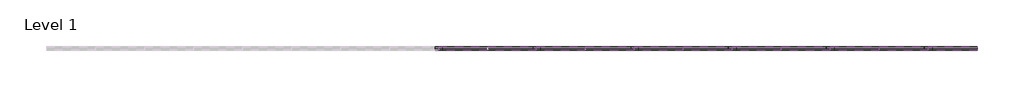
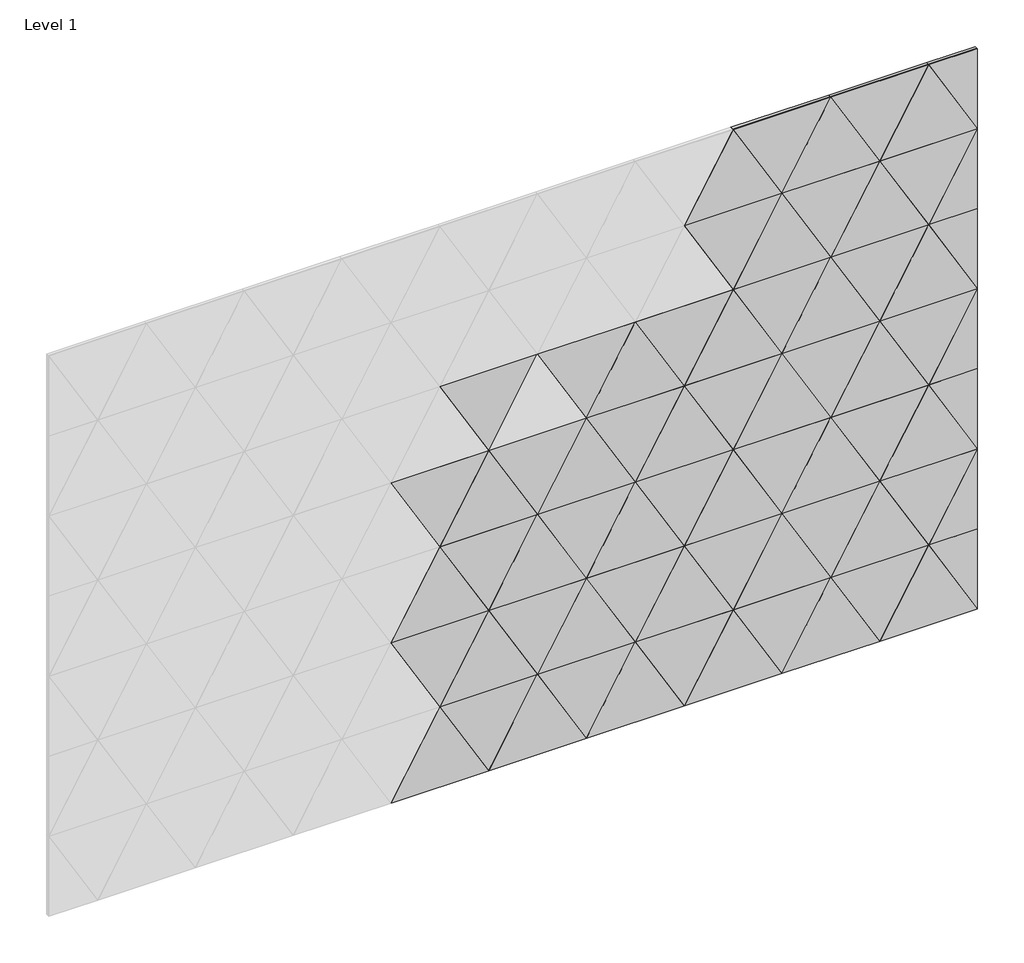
# One storey, part 2 of 2: 70 proxies.
"""IFC4 building model written with IfcOpenShell, lengths in millimetres."""

from ifc_helpers import new_model, si_unit, origin, place, context, project, spatial, transform, mapped, element, save
from components import triangle_60_block_95fa7baf, triangle_60_block_745a5d07, triangle_60_block_31d98bf3

model = new_model("IFC4")

# Units and contexts
model_context = context("Model", 3, world=origin())
ifc_project = project(units=[si_unit("LENGTHUNIT", "METRE", prefix="MILLI")], contexts=[model_context])

# Site, building, storey
site = spatial("IfcSite", under=ifc_project)
building = spatial("IfcBuilding", under=site)
storey = spatial("IfcBuildingStorey", under=building, Name="Level 1", Elevation=0.0)

# Proxies
placement = place(None, origin())
triangle_60_block_shape = triangle_60_block_95fa7baf(model_context)
element("IfcBuildingElementProxy", 1, Name="FilzFelt_Triangle_60_Block : Triangle 60 Block", ObjectType="FilzFelt_Triangle_60_Block : Triangle 60 Block", at=placement, inside=storey, context=model_context, shape_type="MappedRepresentation", body=[
    mapped(triangle_60_block_shape, transform((49297.14909, -3215.9647205, 2243.5180059), x_axis=(-1.0, 0.0, 0.0), y_axis=(0.0, 0.0, -1.0), z_axis=(0.0, -1.0, 0.0))),
])
element("IfcBuildingElementProxy", 2, Name="FilzFelt_Triangle_60_Block : Triangle 60 Block", ObjectType="FilzFelt_Triangle_60_Block : Triangle 60 Block", at=placement, inside=storey, context=model_context, shape_type="MappedRepresentation", body=[
    mapped(triangle_60_block_shape, transform((49825.78659, -3215.9647205, 2243.3090029), x_axis=(1.0, 0.0, 0.0), y_axis=(0.0, 0.0, 1.0), z_axis=(0.0, -1.0, 0.0))),
])
element("IfcBuildingElementProxy", 3, Name="FilzFelt_Triangle_60_Block : Triangle 60 Block", ObjectType="FilzFelt_Triangle_60_Block : Triangle 60 Block", at=placement, inside=storey, context=model_context, shape_type="MappedRepresentation", body=[
    mapped(triangle_60_block_shape, transform((49297.14909, -3215.9647205, 1938.1), x_axis=(1.0, 0.0, 0.0), y_axis=(0.0, 0.0, 1.0), z_axis=(0.0, -1.0, 0.0))),
])
element("IfcBuildingElementProxy", 4, Name="FilzFelt_Triangle_60_Block : Triangle 60 Block", ObjectType="FilzFelt_Triangle_60_Block : Triangle 60 Block", at=placement, inside=storey, context=model_context, shape_type="MappedRepresentation", body=[
    mapped(triangle_60_block_shape, transform((48239.87409, -3215.9647205, 1633.1), x_axis=(-1.0, 0.0, 0.0), y_axis=(0.0, 0.0, -1.0), z_axis=(0.0, -1.0, 0.0))),
])
element("IfcBuildingElementProxy", 5, Name="FilzFelt_Triangle_60_Block : Triangle 60 Block", ObjectType="FilzFelt_Triangle_60_Block : Triangle 60 Block", at=placement, inside=storey, context=model_context, shape_type="MappedRepresentation", body=[
    mapped(triangle_60_block_shape, transform((48944.72409, -3215.9647205, 1633.1), x_axis=(-1.0, 0.0, 0.0), y_axis=(0.0, 0.0, -1.0), z_axis=(0.0, -1.0, 0.0))),
])
element("IfcBuildingElementProxy", 6, Name="FilzFelt_Triangle_60_Block : Triangle 60 Block", ObjectType="FilzFelt_Triangle_60_Block : Triangle 60 Block", at=placement, inside=storey, context=model_context, shape_type="MappedRepresentation", body=[
    mapped(triangle_60_block_shape, transform((48239.87409, -3215.9647205, 1327.6819941), x_axis=(1.0, 0.0, 0.0), y_axis=(0.0, 0.0, 1.0), z_axis=(0.0, -1.0, 0.0))),
])
element("IfcBuildingElementProxy", 7, Name="FilzFelt_Triangle_60_Block : Triangle 60 Block", ObjectType="FilzFelt_Triangle_60_Block : Triangle 60 Block", at=placement, inside=storey, context=model_context, shape_type="MappedRepresentation", body=[
    mapped(triangle_60_block_shape, transform((49473.36159, -3215.9647205, 1327.8909971), x_axis=(-1.0, 0.0, 0.0), y_axis=(0.0, 0.0, -1.0), z_axis=(0.0, -1.0, 0.0))),
])
element("IfcBuildingElementProxy", 8, Name="FilzFelt_Triangle_60_Block : Triangle 60 Block", ObjectType="FilzFelt_Triangle_60_Block : Triangle 60 Block", at=placement, inside=storey, context=model_context, shape_type="MappedRepresentation", body=[
    mapped(triangle_60_block_shape, transform((48416.08659, -3215.9647205, 1022.4729912), x_axis=(1.0, 0.0, 0.0), y_axis=(0.0, 0.0, 1.0), z_axis=(0.0, -1.0, 0.0))),
])
element("IfcBuildingElementProxy", 9, Name="FilzFelt_Triangle_60_Block : Triangle 60 Block", ObjectType="FilzFelt_Triangle_60_Block : Triangle 60 Block", at=placement, inside=storey, context=model_context, shape_type="MappedRepresentation", body=[
    mapped(triangle_60_block_shape, transform((48768.51159, -3215.9647205, 1022.4729912), x_axis=(1.0, 0.0, 0.0), y_axis=(0.0, 0.0, 1.0), z_axis=(0.0, -1.0, 0.0))),
])
element("IfcBuildingElementProxy", 10, Name="FilzFelt_Triangle_60_Block : Triangle 60 Block", ObjectType="FilzFelt_Triangle_60_Block : Triangle 60 Block", at=placement, inside=storey, context=model_context, shape_type="MappedRepresentation", body=[
    mapped(triangle_60_block_shape, transform((48944.72409, -3215.9647205, 1022.6819941), x_axis=(-1.0, 0.0, 0.0), y_axis=(0.0, 0.0, -1.0), z_axis=(0.0, -1.0, 0.0))),
])
element("IfcBuildingElementProxy", 11, Name="FilzFelt_Triangle_60_Block : Triangle 60 Block", ObjectType="FilzFelt_Triangle_60_Block : Triangle 60 Block", at=placement, inside=storey, context=model_context, shape_type="MappedRepresentation", body=[
    mapped(triangle_60_block_shape, transform((49297.14909, -3215.9647205, 1022.6819941), x_axis=(-1.0, 0.0, 0.0), y_axis=(0.0, 0.0, -1.0), z_axis=(0.0, -1.0, 0.0))),
])
element("IfcBuildingElementProxy", 12, Name="FilzFelt_Triangle_60_Block : Triangle 60 Block", ObjectType="FilzFelt_Triangle_60_Block : Triangle 60 Block", at=placement, inside=storey, context=model_context, shape_type="MappedRepresentation", body=[
    mapped(triangle_60_block_shape, transform((49825.78659, -3215.9647205, 1022.4729912), x_axis=(1.0, 0.0, 0.0), y_axis=(0.0, 0.0, 1.0), z_axis=(0.0, -1.0, 0.0))),
])
element("IfcBuildingElementProxy", 13, Name="FilzFelt_Triangle_60_Block : Triangle 60 Block", ObjectType="FilzFelt_Triangle_60_Block : Triangle 60 Block", at=placement, inside=storey, context=model_context, shape_type="MappedRepresentation", body=[
    mapped(triangle_60_block_shape, transform((48063.66159, -3215.9647205, 717.4729912), x_axis=(-1.0, 0.0, 0.0), y_axis=(0.0, 0.0, -1.0), z_axis=(0.0, -1.0, 0.0))),
])
element("IfcBuildingElementProxy", 14, Name="FilzFelt_Triangle_60_Block : Triangle 60 Block", ObjectType="FilzFelt_Triangle_60_Block : Triangle 60 Block", at=placement, inside=storey, context=model_context, shape_type="MappedRepresentation", body=[
    mapped(triangle_60_block_shape, transform((48944.72409, -3215.9647205, 717.2639883), x_axis=(1.0, 0.0, 0.0), y_axis=(0.0, 0.0, 1.0), z_axis=(0.0, -1.0, 0.0))),
])
element("IfcBuildingElementProxy", 15, Name="FilzFelt_Triangle_60_Block : Triangle 60 Block", ObjectType="FilzFelt_Triangle_60_Block : Triangle 60 Block", at=placement, inside=storey, context=model_context, shape_type="MappedRepresentation", body=[
    mapped(triangle_60_block_shape, transform((49649.57409, -3215.9647205, 717.2639883), x_axis=(1.0, 0.0, 0.0), y_axis=(0.0, 0.0, 1.0), z_axis=(0.0, -1.0, 0.0))),
])
element("IfcBuildingElementProxy", 16, Name="FilzFelt_Triangle_60_Block : Triangle 60 Block", ObjectType="FilzFelt_Triangle_60_Block : Triangle 60 Block", at=placement, inside=storey, context=model_context, shape_type="MappedRepresentation", body=[
    mapped(triangle_60_block_shape, transform((48416.08659, -3215.9647205, 412.0549854), x_axis=(1.0, 0.0, 0.0), y_axis=(0.0, 0.0, 1.0), z_axis=(0.0, -1.0, 0.0))),
])
element("IfcBuildingElementProxy", 17, Name="FilzFelt_Triangle_60_Block : Triangle 60 Block", ObjectType="FilzFelt_Triangle_60_Block : Triangle 60 Block", at=placement, inside=storey, context=model_context, shape_type="MappedRepresentation", body=[
    mapped(triangle_60_block_shape, transform((48768.51159, -3215.9647205, 412.0549854), x_axis=(1.0, 0.0, 0.0), y_axis=(0.0, 0.0, 1.0), z_axis=(0.0, -1.0, 0.0))),
])
element("IfcBuildingElementProxy", 18, Name="FilzFelt_Triangle_60_Block : Triangle 60 Block", ObjectType="FilzFelt_Triangle_60_Block : Triangle 60 Block", at=placement, inside=storey, context=model_context, shape_type="MappedRepresentation", body=[
    mapped(triangle_60_block_shape, transform((49297.14909, -3215.9647205, 412.2639883), x_axis=(-1.0, 0.0, 0.0), y_axis=(0.0, 0.0, -1.0), z_axis=(0.0, -1.0, 0.0))),
])
triangle_60_block_2_shape = triangle_60_block_745a5d07(model_context)
element("IfcBuildingElementProxy", 19, Name="FilzFelt_Triangle_60_Block : Triangle 60 Block", ObjectType="FilzFelt_Triangle_60_Block : Triangle 60 Block", at=placement, inside=storey, context=model_context, shape_type="MappedRepresentation", body=[
    mapped(triangle_60_block_2_shape, transform((50001.99909, -3215.9647205, 1327.6819941), x_axis=(-1.0, 0.0, 0.0), y_axis=(0.0, 0.0, -1.0), z_axis=(0.0, -1.0, 0.0))),
])
triangle_60_block_3_shape = triangle_60_block_31d98bf3(model_context)
element("IfcBuildingElementProxy", 20, Name="FilzFelt_Triangle_60_Block : Triangle 60 Block", ObjectType="FilzFelt_Triangle_60_Block : Triangle 60 Block", at=placement, inside=storey, context=model_context, shape_type="MappedRepresentation", body=[
    mapped(triangle_60_block_3_shape, transform((50001.99909, -3215.9647205, 1633.1), x_axis=(-1.0, 0.0, 0.0), y_axis=(0.0, 0.0, -1.0), z_axis=(0.0, -1.0, 0.0))),
])
element("IfcBuildingElementProxy", 21, Name="FilzFelt_Triangle_60_Block : Triangle 60 Block", ObjectType="FilzFelt_Triangle_60_Block : Triangle 60 Block", at=placement, inside=storey, context=model_context, shape_type="MappedRepresentation", body=[
    mapped(triangle_60_block_shape, transform((49473.36159, -3215.9647205, 2243.3090029), x_axis=(1.0, 0.0, 0.0), y_axis=(0.0, 0.0, 1.0), z_axis=(0.0, -1.0, 0.0))),
])
element("IfcBuildingElementProxy", 22, Name="FilzFelt_Triangle_60_Block : Triangle 60 Block", ObjectType="FilzFelt_Triangle_60_Block : Triangle 60 Block", at=placement, inside=storey, context=model_context, shape_type="MappedRepresentation", body=[
    mapped(triangle_60_block_shape, transform((49120.93659, -3215.9647205, 1938.3090029), x_axis=(-1.0, 0.0, 0.0), y_axis=(0.0, 0.0, -1.0), z_axis=(0.0, -1.0, 0.0))),
])
element("IfcBuildingElementProxy", 23, Name="FilzFelt_Triangle_60_Block : Triangle 60 Block", ObjectType="FilzFelt_Triangle_60_Block : Triangle 60 Block", at=placement, inside=storey, context=model_context, shape_type="MappedRepresentation", body=[
    mapped(triangle_60_block_shape, transform((49473.36159, -3215.9647205, 1632.8909971), x_axis=(1.0, 0.0, 0.0), y_axis=(0.0, 0.0, 1.0), z_axis=(0.0, -1.0, 0.0))),
])
element("IfcBuildingElementProxy", 24, Name="FilzFelt_Triangle_60_Block : Triangle 60 Block", ObjectType="FilzFelt_Triangle_60_Block : Triangle 60 Block", at=placement, inside=storey, context=model_context, shape_type="MappedRepresentation", body=[
    mapped(triangle_60_block_shape, transform((48592.29909, -3215.9647205, 1633.1), x_axis=(-1.0, 0.0, 0.0), y_axis=(0.0, 0.0, -1.0), z_axis=(0.0, -1.0, 0.0))),
])
element("IfcBuildingElementProxy", 25, Name="FilzFelt_Triangle_60_Block : Triangle 60 Block", ObjectType="FilzFelt_Triangle_60_Block : Triangle 60 Block", at=placement, inside=storey, context=model_context, shape_type="MappedRepresentation", body=[
    mapped(triangle_60_block_shape, transform((48063.66159, -3215.9647205, 1327.8909971), x_axis=(-1.0, 0.0, 0.0), y_axis=(0.0, 0.0, -1.0), z_axis=(0.0, -1.0, 0.0))),
])
element("IfcBuildingElementProxy", 26, Name="FilzFelt_Triangle_60_Block : Triangle 60 Block", ObjectType="FilzFelt_Triangle_60_Block : Triangle 60 Block", at=placement, inside=storey, context=model_context, shape_type="MappedRepresentation", body=[
    mapped(triangle_60_block_shape, transform((48592.29909, -3215.9647205, 1327.6819941), x_axis=(1.0, 0.0, 0.0), y_axis=(0.0, 0.0, 1.0), z_axis=(0.0, -1.0, 0.0))),
])
element("IfcBuildingElementProxy", 27, Name="FilzFelt_Triangle_60_Block : Triangle 60 Block", ObjectType="FilzFelt_Triangle_60_Block : Triangle 60 Block", at=placement, inside=storey, context=model_context, shape_type="MappedRepresentation", body=[
    mapped(triangle_60_block_shape, transform((48944.72409, -3215.9647205, 1327.6819941), x_axis=(1.0, 0.0, 0.0), y_axis=(0.0, 0.0, 1.0), z_axis=(0.0, -1.0, 0.0))),
])
element("IfcBuildingElementProxy", 28, Name="FilzFelt_Triangle_60_Block : Triangle 60 Block", ObjectType="FilzFelt_Triangle_60_Block : Triangle 60 Block", at=placement, inside=storey, context=model_context, shape_type="MappedRepresentation", body=[
    mapped(triangle_60_block_shape, transform((49297.14909, -3215.9647205, 1327.6819941), x_axis=(1.0, 0.0, 0.0), y_axis=(0.0, 0.0, 1.0), z_axis=(0.0, -1.0, 0.0))),
])
element("IfcBuildingElementProxy", 29, Name="FilzFelt_Triangle_60_Block : Triangle 60 Block", ObjectType="FilzFelt_Triangle_60_Block : Triangle 60 Block", at=placement, inside=storey, context=model_context, shape_type="MappedRepresentation", body=[
    mapped(triangle_60_block_shape, transform((49825.78659, -3215.9647205, 1327.8909971), x_axis=(-1.0, 0.0, 0.0), y_axis=(0.0, 0.0, -1.0), z_axis=(0.0, -1.0, 0.0))),
])
element("IfcBuildingElementProxy", 30, Name="FilzFelt_Triangle_60_Block : Triangle 60 Block", ObjectType="FilzFelt_Triangle_60_Block : Triangle 60 Block", at=placement, inside=storey, context=model_context, shape_type="MappedRepresentation", body=[
    mapped(triangle_60_block_shape, transform((49120.93659, -3215.9647205, 1022.4729912), x_axis=(1.0, 0.0, 0.0), y_axis=(0.0, 0.0, 1.0), z_axis=(0.0, -1.0, 0.0))),
])
element("IfcBuildingElementProxy", 31, Name="FilzFelt_Triangle_60_Block : Triangle 60 Block", ObjectType="FilzFelt_Triangle_60_Block : Triangle 60 Block", at=placement, inside=storey, context=model_context, shape_type="MappedRepresentation", body=[
    mapped(triangle_60_block_shape, transform((48239.87409, -3215.9647205, 1022.6819941), x_axis=(-1.0, 0.0, 0.0), y_axis=(0.0, 0.0, -1.0), z_axis=(0.0, -1.0, 0.0))),
])
element("IfcBuildingElementProxy", 32, Name="FilzFelt_Triangle_60_Block : Triangle 60 Block", ObjectType="FilzFelt_Triangle_60_Block : Triangle 60 Block", at=placement, inside=storey, context=model_context, shape_type="MappedRepresentation", body=[
    mapped(triangle_60_block_shape, transform((48768.51159, -3215.9647205, 717.4729912), x_axis=(-1.0, 0.0, 0.0), y_axis=(0.0, 0.0, -1.0), z_axis=(0.0, -1.0, 0.0))),
])
element("IfcBuildingElementProxy", 33, Name="FilzFelt_Triangle_60_Block : Triangle 60 Block", ObjectType="FilzFelt_Triangle_60_Block : Triangle 60 Block", at=placement, inside=storey, context=model_context, shape_type="MappedRepresentation", body=[
    mapped(triangle_60_block_shape, transform((49473.36159, -3215.9647205, 717.4729912), x_axis=(-1.0, 0.0, 0.0), y_axis=(0.0, 0.0, -1.0), z_axis=(0.0, -1.0, 0.0))),
])
element("IfcBuildingElementProxy", 34, Name="FilzFelt_Triangle_60_Block : Triangle 60 Block", ObjectType="FilzFelt_Triangle_60_Block : Triangle 60 Block", at=placement, inside=storey, context=model_context, shape_type="MappedRepresentation", body=[
    mapped(triangle_60_block_shape, transform((49825.78659, -3215.9647205, 717.4729912), x_axis=(-1.0, 0.0, 0.0), y_axis=(0.0, 0.0, -1.0), z_axis=(0.0, -1.0, 0.0))),
])
element("IfcBuildingElementProxy", 35, Name="FilzFelt_Triangle_60_Block : Triangle 60 Block", ObjectType="FilzFelt_Triangle_60_Block : Triangle 60 Block", at=placement, inside=storey, context=model_context, shape_type="MappedRepresentation", body=[
    mapped(triangle_60_block_shape, transform((49473.36159, -3215.9647205, 412.0549854), x_axis=(1.0, 0.0, 0.0), y_axis=(0.0, 0.0, 1.0), z_axis=(0.0, -1.0, 0.0))),
])
element("IfcBuildingElementProxy", 36, Name="FilzFelt_Triangle_60_Block : Triangle 60 Block", ObjectType="FilzFelt_Triangle_60_Block : Triangle 60 Block", at=placement, inside=storey, context=model_context, shape_type="MappedRepresentation", body=[
    mapped(triangle_60_block_shape, transform((48239.87409, -3215.9647205, 412.2639883), x_axis=(-1.0, 0.0, 0.0), y_axis=(0.0, 0.0, -1.0), z_axis=(0.0, -1.0, 0.0))),
])
element("IfcBuildingElementProxy", 37, Name="FilzFelt_Triangle_60_Block : Triangle 60 Block", ObjectType="FilzFelt_Triangle_60_Block : Triangle 60 Block", at=placement, inside=storey, context=model_context, shape_type="MappedRepresentation", body=[
    mapped(triangle_60_block_shape, transform((48592.29909, -3215.9647205, 412.2639883), x_axis=(-1.0, 0.0, 0.0), y_axis=(0.0, 0.0, -1.0), z_axis=(0.0, -1.0, 0.0))),
])
element("IfcBuildingElementProxy", 38, Name="FilzFelt_Triangle_60_Block : Triangle 60 Block", ObjectType="FilzFelt_Triangle_60_Block : Triangle 60 Block", at=placement, inside=storey, context=model_context, shape_type="MappedRepresentation", body=[
    mapped(triangle_60_block_2_shape, transform((50001.99909, -3215.9647205, 1938.1), x_axis=(-1.0, 0.0, 0.0), y_axis=(0.0, 0.0, -1.0), z_axis=(0.0, -1.0, 0.0))),
])
element("IfcBuildingElementProxy", 39, Name="FilzFelt_Triangle_60_Block : Triangle 60 Block", ObjectType="FilzFelt_Triangle_60_Block : Triangle 60 Block", at=placement, inside=storey, context=model_context, shape_type="MappedRepresentation", body=[
    mapped(triangle_60_block_3_shape, transform((50001.99909, -3215.9647205, 412.2639883), x_axis=(-1.0, 0.0, 0.0), y_axis=(0.0, 0.0, -1.0), z_axis=(0.0, -1.0, 0.0))),
])
element("IfcBuildingElementProxy", 40, Name="FilzFelt_Triangle_60_Block : Triangle 60 Block", ObjectType="FilzFelt_Triangle_60_Block : Triangle 60 Block", at=placement, inside=storey, context=model_context, shape_type="MappedRepresentation", body=[
    mapped(triangle_60_block_shape, transform((49649.57409, -3215.9647205, 2243.5180059), x_axis=(-1.0, 0.0, 0.0), y_axis=(0.0, 0.0, -1.0), z_axis=(0.0, -1.0, 0.0))),
])
element("IfcBuildingElementProxy", 41, Name="FilzFelt_Triangle_60_Block : Triangle 60 Block", ObjectType="FilzFelt_Triangle_60_Block : Triangle 60 Block", at=placement, inside=storey, context=model_context, shape_type="MappedRepresentation", body=[
    mapped(triangle_60_block_shape, transform((49473.36159, -3215.9647205, 1938.3090029), x_axis=(-1.0, 0.0, 0.0), y_axis=(0.0, 0.0, -1.0), z_axis=(0.0, -1.0, 0.0))),
])
element("IfcBuildingElementProxy", 42, Name="FilzFelt_Triangle_60_Block : Triangle 60 Block", ObjectType="FilzFelt_Triangle_60_Block : Triangle 60 Block", at=placement, inside=storey, context=model_context, shape_type="MappedRepresentation", body=[
    mapped(triangle_60_block_shape, transform((49825.78659, -3215.9647205, 1938.3090029), x_axis=(-1.0, 0.0, 0.0), y_axis=(0.0, 0.0, -1.0), z_axis=(0.0, -1.0, 0.0))),
])
element("IfcBuildingElementProxy", 43, Name="FilzFelt_Triangle_60_Block : Triangle 60 Block", ObjectType="FilzFelt_Triangle_60_Block : Triangle 60 Block", at=placement, inside=storey, context=model_context, shape_type="MappedRepresentation", body=[
    mapped(triangle_60_block_shape, transform((48768.51159, -3215.9647205, 1632.8909971), x_axis=(1.0, 0.0, 0.0), y_axis=(0.0, 0.0, 1.0), z_axis=(0.0, -1.0, 0.0))),
])
element("IfcBuildingElementProxy", 44, Name="FilzFelt_Triangle_60_Block : Triangle 60 Block", ObjectType="FilzFelt_Triangle_60_Block : Triangle 60 Block", at=placement, inside=storey, context=model_context, shape_type="MappedRepresentation", body=[
    mapped(triangle_60_block_shape, transform((49297.14909, -3215.9647205, 1633.1), x_axis=(-1.0, 0.0, 0.0), y_axis=(0.0, 0.0, -1.0), z_axis=(0.0, -1.0, 0.0))),
])
element("IfcBuildingElementProxy", 45, Name="FilzFelt_Triangle_60_Block : Triangle 60 Block", ObjectType="FilzFelt_Triangle_60_Block : Triangle 60 Block", at=placement, inside=storey, context=model_context, shape_type="MappedRepresentation", body=[
    mapped(triangle_60_block_shape, transform((49649.57409, -3215.9647205, 1633.1), x_axis=(-1.0, 0.0, 0.0), y_axis=(0.0, 0.0, -1.0), z_axis=(0.0, -1.0, 0.0))),
])
element("IfcBuildingElementProxy", 46, Name="FilzFelt_Triangle_60_Block : Triangle 60 Block", ObjectType="FilzFelt_Triangle_60_Block : Triangle 60 Block", at=placement, inside=storey, context=model_context, shape_type="MappedRepresentation", body=[
    mapped(triangle_60_block_shape, transform((48416.08659, -3215.9647205, 1327.8909971), x_axis=(-1.0, 0.0, 0.0), y_axis=(0.0, 0.0, -1.0), z_axis=(0.0, -1.0, 0.0))),
])
element("IfcBuildingElementProxy", 47, Name="FilzFelt_Triangle_60_Block : Triangle 60 Block", ObjectType="FilzFelt_Triangle_60_Block : Triangle 60 Block", at=placement, inside=storey, context=model_context, shape_type="MappedRepresentation", body=[
    mapped(triangle_60_block_shape, transform((49120.93659, -3215.9647205, 1327.8909971), x_axis=(-1.0, 0.0, 0.0), y_axis=(0.0, 0.0, -1.0), z_axis=(0.0, -1.0, 0.0))),
])
element("IfcBuildingElementProxy", 48, Name="FilzFelt_Triangle_60_Block : Triangle 60 Block", ObjectType="FilzFelt_Triangle_60_Block : Triangle 60 Block", at=placement, inside=storey, context=model_context, shape_type="MappedRepresentation", body=[
    mapped(triangle_60_block_shape, transform((49649.57409, -3215.9647205, 1327.6819941), x_axis=(1.0, 0.0, 0.0), y_axis=(0.0, 0.0, 1.0), z_axis=(0.0, -1.0, 0.0))),
])
element("IfcBuildingElementProxy", 49, Name="FilzFelt_Triangle_60_Block : Triangle 60 Block", ObjectType="FilzFelt_Triangle_60_Block : Triangle 60 Block", at=placement, inside=storey, context=model_context, shape_type="MappedRepresentation", body=[
    mapped(triangle_60_block_shape, transform((48063.66159, -3215.9647205, 1022.4729912), x_axis=(1.0, 0.0, 0.0), y_axis=(0.0, 0.0, 1.0), z_axis=(0.0, -1.0, 0.0))),
])
element("IfcBuildingElementProxy", 50, Name="FilzFelt_Triangle_60_Block : Triangle 60 Block", ObjectType="FilzFelt_Triangle_60_Block : Triangle 60 Block", at=placement, inside=storey, context=model_context, shape_type="MappedRepresentation", body=[
    mapped(triangle_60_block_shape, transform((49473.36159, -3215.9647205, 1022.4729912), x_axis=(1.0, 0.0, 0.0), y_axis=(0.0, 0.0, 1.0), z_axis=(0.0, -1.0, 0.0))),
])
element("IfcBuildingElementProxy", 51, Name="FilzFelt_Triangle_60_Block : Triangle 60 Block", ObjectType="FilzFelt_Triangle_60_Block : Triangle 60 Block", at=placement, inside=storey, context=model_context, shape_type="MappedRepresentation", body=[
    mapped(triangle_60_block_shape, transform((48592.29909, -3215.9647205, 1022.6819941), x_axis=(-1.0, 0.0, 0.0), y_axis=(0.0, 0.0, -1.0), z_axis=(0.0, -1.0, 0.0))),
])
element("IfcBuildingElementProxy", 52, Name="FilzFelt_Triangle_60_Block : Triangle 60 Block", ObjectType="FilzFelt_Triangle_60_Block : Triangle 60 Block", at=placement, inside=storey, context=model_context, shape_type="MappedRepresentation", body=[
    mapped(triangle_60_block_shape, transform((48239.87409, -3215.9647205, 717.2639883), x_axis=(1.0, 0.0, 0.0), y_axis=(0.0, 0.0, 1.0), z_axis=(0.0, -1.0, 0.0))),
])
element("IfcBuildingElementProxy", 53, Name="FilzFelt_Triangle_60_Block : Triangle 60 Block", ObjectType="FilzFelt_Triangle_60_Block : Triangle 60 Block", at=placement, inside=storey, context=model_context, shape_type="MappedRepresentation", body=[
    mapped(triangle_60_block_shape, transform((48592.29909, -3215.9647205, 717.2639883), x_axis=(1.0, 0.0, 0.0), y_axis=(0.0, 0.0, 1.0), z_axis=(0.0, -1.0, 0.0))),
])
element("IfcBuildingElementProxy", 54, Name="FilzFelt_Triangle_60_Block : Triangle 60 Block", ObjectType="FilzFelt_Triangle_60_Block : Triangle 60 Block", at=placement, inside=storey, context=model_context, shape_type="MappedRepresentation", body=[
    mapped(triangle_60_block_shape, transform((49120.93659, -3215.9647205, 717.4729912), x_axis=(-1.0, 0.0, 0.0), y_axis=(0.0, 0.0, -1.0), z_axis=(0.0, -1.0, 0.0))),
])
element("IfcBuildingElementProxy", 55, Name="FilzFelt_Triangle_60_Block : Triangle 60 Block", ObjectType="FilzFelt_Triangle_60_Block : Triangle 60 Block", at=placement, inside=storey, context=model_context, shape_type="MappedRepresentation", body=[
    mapped(triangle_60_block_shape, transform((48063.66159, -3215.9647205, 412.0549854), x_axis=(1.0, 0.0, 0.0), y_axis=(0.0, 0.0, 1.0), z_axis=(0.0, -1.0, 0.0))),
])
element("IfcBuildingElementProxy", 56, Name="FilzFelt_Triangle_60_Block : Triangle 60 Block", ObjectType="FilzFelt_Triangle_60_Block : Triangle 60 Block", at=placement, inside=storey, context=model_context, shape_type="MappedRepresentation", body=[
    mapped(triangle_60_block_shape, transform((49120.93659, -3215.9647205, 412.0549854), x_axis=(1.0, 0.0, 0.0), y_axis=(0.0, 0.0, 1.0), z_axis=(0.0, -1.0, 0.0))),
])
element("IfcBuildingElementProxy", 57, Name="FilzFelt_Triangle_60_Block : Triangle 60 Block", ObjectType="FilzFelt_Triangle_60_Block : Triangle 60 Block", at=placement, inside=storey, context=model_context, shape_type="MappedRepresentation", body=[
    mapped(triangle_60_block_shape, transform((49649.57409, -3215.9647205, 412.2639883), x_axis=(-1.0, 0.0, 0.0), y_axis=(0.0, 0.0, -1.0), z_axis=(0.0, -1.0, 0.0))),
])
element("IfcBuildingElementProxy", 58, Name="FilzFelt_Triangle_60_Block : Triangle 60 Block", ObjectType="FilzFelt_Triangle_60_Block : Triangle 60 Block", at=placement, inside=storey, context=model_context, shape_type="MappedRepresentation", body=[
    mapped(triangle_60_block_3_shape, transform((50001.99909, -3215.9647205, 1022.6819941), x_axis=(-1.0, 0.0, 0.0), y_axis=(0.0, 0.0, -1.0), z_axis=(0.0, -1.0, 0.0))),
])
element("IfcBuildingElementProxy", 59, Name="FilzFelt_Triangle_60_Block : Triangle 60 Block", ObjectType="FilzFelt_Triangle_60_Block : Triangle 60 Block", at=placement, inside=storey, context=model_context, shape_type="MappedRepresentation", body=[
    mapped(triangle_60_block_2_shape, transform((50001.99909, -3215.9647205, 717.2639883), x_axis=(-1.0, 0.0, 0.0), y_axis=(0.0, 0.0, -1.0), z_axis=(0.0, -1.0, 0.0))),
])
element("IfcBuildingElementProxy", 60, Name="FilzFelt_Triangle_60_Block : Triangle 60 Block", ObjectType="FilzFelt_Triangle_60_Block : Triangle 60 Block", at=placement, inside=storey, context=model_context, shape_type="MappedRepresentation", body=[
    mapped(triangle_60_block_shape, transform((49120.93659, -3215.9647205, 2243.3090029), x_axis=(1.0, 0.0, 0.0), y_axis=(0.0, 0.0, 1.0), z_axis=(0.0, -1.0, 0.0))),
])
element("IfcBuildingElementProxy", 61, Name="FilzFelt_Triangle_60_Block : Triangle 60 Block", ObjectType="FilzFelt_Triangle_60_Block : Triangle 60 Block", at=placement, inside=storey, context=model_context, shape_type="MappedRepresentation", body=[
    mapped(triangle_60_block_shape, transform((49649.57409, -3215.9647205, 1938.1), x_axis=(1.0, 0.0, 0.0), y_axis=(0.0, 0.0, 1.0), z_axis=(0.0, -1.0, 0.0))),
])
element("IfcBuildingElementProxy", 62, Name="FilzFelt_Triangle_60_Block : Triangle 60 Block", ObjectType="FilzFelt_Triangle_60_Block : Triangle 60 Block", at=placement, inside=storey, context=model_context, shape_type="MappedRepresentation", body=[
    mapped(triangle_60_block_shape, transform((49120.93659, -3215.9647205, 1632.8909971), x_axis=(1.0, 0.0, 0.0), y_axis=(0.0, 0.0, 1.0), z_axis=(0.0, -1.0, 0.0))),
])
element("IfcBuildingElementProxy", 63, Name="FilzFelt_Triangle_60_Block : Triangle 60 Block", ObjectType="FilzFelt_Triangle_60_Block : Triangle 60 Block", at=placement, inside=storey, context=model_context, shape_type="MappedRepresentation", body=[
    mapped(triangle_60_block_shape, transform((49825.78659, -3215.9647205, 1632.8909971), x_axis=(1.0, 0.0, 0.0), y_axis=(0.0, 0.0, 1.0), z_axis=(0.0, -1.0, 0.0))),
])
element("IfcBuildingElementProxy", 64, Name="FilzFelt_Triangle_60_Block : Triangle 60 Block", ObjectType="FilzFelt_Triangle_60_Block : Triangle 60 Block", at=placement, inside=storey, context=model_context, shape_type="MappedRepresentation", body=[
    mapped(triangle_60_block_shape, transform((48768.51159, -3215.9647205, 1327.8909971), x_axis=(-1.0, 0.0, 0.0), y_axis=(0.0, 0.0, -1.0), z_axis=(0.0, -1.0, 0.0))),
])
element("IfcBuildingElementProxy", 65, Name="FilzFelt_Triangle_60_Block : Triangle 60 Block", ObjectType="FilzFelt_Triangle_60_Block : Triangle 60 Block", at=placement, inside=storey, context=model_context, shape_type="MappedRepresentation", body=[
    mapped(triangle_60_block_shape, transform((49649.57409, -3215.9647205, 1022.6819941), x_axis=(-1.0, 0.0, 0.0), y_axis=(0.0, 0.0, -1.0), z_axis=(0.0, -1.0, 0.0))),
])
element("IfcBuildingElementProxy", 66, Name="FilzFelt_Triangle_60_Block : Triangle 60 Block", ObjectType="FilzFelt_Triangle_60_Block : Triangle 60 Block", at=placement, inside=storey, context=model_context, shape_type="MappedRepresentation", body=[
    mapped(triangle_60_block_shape, transform((48416.08659, -3215.9647205, 717.4729912), x_axis=(-1.0, 0.0, 0.0), y_axis=(0.0, 0.0, -1.0), z_axis=(0.0, -1.0, 0.0))),
])
element("IfcBuildingElementProxy", 67, Name="FilzFelt_Triangle_60_Block : Triangle 60 Block", ObjectType="FilzFelt_Triangle_60_Block : Triangle 60 Block", at=placement, inside=storey, context=model_context, shape_type="MappedRepresentation", body=[
    mapped(triangle_60_block_shape, transform((49297.14909, -3215.9647205, 717.2639883), x_axis=(1.0, 0.0, 0.0), y_axis=(0.0, 0.0, 1.0), z_axis=(0.0, -1.0, 0.0))),
])
element("IfcBuildingElementProxy", 68, Name="FilzFelt_Triangle_60_Block : Triangle 60 Block", ObjectType="FilzFelt_Triangle_60_Block : Triangle 60 Block", at=placement, inside=storey, context=model_context, shape_type="MappedRepresentation", body=[
    mapped(triangle_60_block_shape, transform((48944.72409, -3215.9647205, 412.2639883), x_axis=(-1.0, 0.0, 0.0), y_axis=(0.0, 0.0, -1.0), z_axis=(0.0, -1.0, 0.0))),
])
element("IfcBuildingElementProxy", 69, Name="FilzFelt_Triangle_60_Block : Triangle 60 Block", ObjectType="FilzFelt_Triangle_60_Block : Triangle 60 Block", at=placement, inside=storey, context=model_context, shape_type="MappedRepresentation", body=[
    mapped(triangle_60_block_shape, transform((49825.78659, -3215.9647205, 412.0549854), x_axis=(1.0, 0.0, 0.0), y_axis=(0.0, 0.0, 1.0), z_axis=(0.0, -1.0, 0.0))),
])
element("IfcBuildingElementProxy", 70, Name="FilzFelt_Triangle_60_Block : Triangle 60 Block", ObjectType="FilzFelt_Triangle_60_Block : Triangle 60 Block", at=placement, inside=storey, context=model_context, shape_type="MappedRepresentation", body=[
    mapped(triangle_60_block_3_shape, transform((50001.99909, -3215.9647205, 2243.5180059), x_axis=(-1.0, 0.0, 0.0), y_axis=(0.0, 0.0, -1.0), z_axis=(0.0, -1.0, 0.0))),
])

save(model, "model.ifc")
